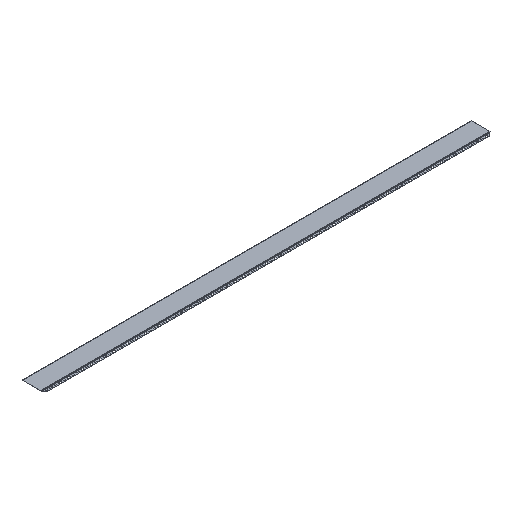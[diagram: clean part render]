
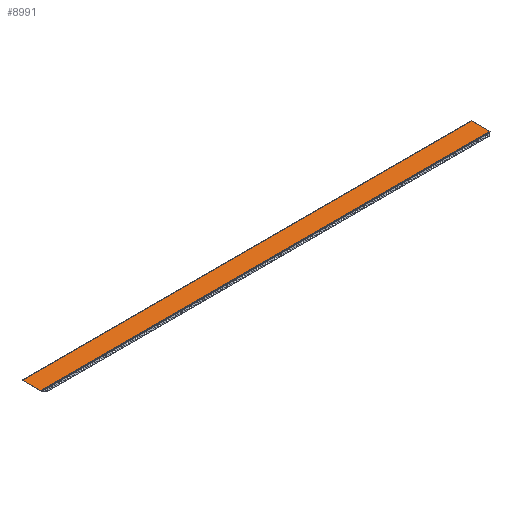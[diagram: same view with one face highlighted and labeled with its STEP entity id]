
A CAD part, isometric view. The second image highlights one B-rep face of the part: STEP entity #8991.
In plain terms, the highlighted planar face has unit normal (0, 0, 1).
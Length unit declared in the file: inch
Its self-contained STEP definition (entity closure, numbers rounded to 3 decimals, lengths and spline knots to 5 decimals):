
#426=PLANE('',#9852);
#851=FACE_OUTER_BOUND('',#1481,.T.);
#1481=EDGE_LOOP('',(#8267,#8268,#8269,#8270,#8271,#8272,#8273,#8274,#8275,
#8276,#8277,#8278));
#2307=LINE('',#14857,#3177);
#2309=LINE('',#14863,#3179);
#2312=LINE('',#14868,#3182);
#2319=LINE('',#14889,#3189);
#2323=LINE('',#14898,#3193);
#2325=LINE('',#14904,#3195);
#2328=LINE('',#14909,#3198);
#2333=LINE('',#14924,#3203);
#2344=LINE('',#14957,#3214);
#2345=LINE('',#14960,#3215);
#2346=LINE('',#14961,#3216);
#2347=LINE('',#14962,#3217);
#3177=VECTOR('',#12281,0.3937);
#3179=VECTOR('',#12285,0.3937);
#3182=VECTOR('',#12290,0.3937);
#3189=VECTOR('',#12307,0.3937);
#3193=VECTOR('',#12313,0.3937);
#3195=VECTOR('',#12317,0.3937);
#3198=VECTOR('',#12322,0.3937);
#3203=VECTOR('',#12335,0.3937);
#3214=VECTOR('',#12370,0.3937);
#3215=VECTOR('',#12373,0.3937);
#3216=VECTOR('',#12374,0.3937);
#3217=VECTOR('',#12375,0.3937);
#4458=VERTEX_POINT('',#14851);
#4460=VERTEX_POINT('',#14855);
#4461=VERTEX_POINT('',#14859);
#4463=VERTEX_POINT('',#14862);
#4473=VERTEX_POINT('',#14887);
#4475=VERTEX_POINT('',#14892);
#4477=VERTEX_POINT('',#14896);
#4478=VERTEX_POINT('',#14900);
#4480=VERTEX_POINT('',#14903);
#4487=VERTEX_POINT('',#14922);
#4497=VERTEX_POINT('',#14955);
#4498=VERTEX_POINT('',#14959);
#5715=EDGE_CURVE('',#4458,#4460,#2307,.T.);
#5717=EDGE_CURVE('',#4461,#4463,#2309,.T.);
#5720=EDGE_CURVE('',#4463,#4460,#2312,.T.);
#5731=EDGE_CURVE('',#4473,#4461,#2319,.T.);
#5735=EDGE_CURVE('',#4475,#4477,#2323,.T.);
#5737=EDGE_CURVE('',#4478,#4480,#2325,.T.);
#5740=EDGE_CURVE('',#4480,#4477,#2328,.T.);
#5748=EDGE_CURVE('',#4478,#4487,#2333,.T.);
#5765=EDGE_CURVE('',#4487,#4497,#2344,.T.);
#5766=EDGE_CURVE('',#4498,#4475,#2345,.T.);
#5767=EDGE_CURVE('',#4458,#4497,#2346,.T.);
#5768=EDGE_CURVE('',#4498,#4473,#2347,.T.);
#8267=ORIENTED_EDGE('',*,*,#5766,.T.);
#8268=ORIENTED_EDGE('',*,*,#5735,.T.);
#8269=ORIENTED_EDGE('',*,*,#5740,.F.);
#8270=ORIENTED_EDGE('',*,*,#5737,.F.);
#8271=ORIENTED_EDGE('',*,*,#5748,.T.);
#8272=ORIENTED_EDGE('',*,*,#5765,.T.);
#8273=ORIENTED_EDGE('',*,*,#5767,.F.);
#8274=ORIENTED_EDGE('',*,*,#5715,.T.);
#8275=ORIENTED_EDGE('',*,*,#5720,.F.);
#8276=ORIENTED_EDGE('',*,*,#5717,.F.);
#8277=ORIENTED_EDGE('',*,*,#5731,.F.);
#8278=ORIENTED_EDGE('',*,*,#5768,.F.);
#8991=ADVANCED_FACE('',(#851),#426,.T.);
#9852=AXIS2_PLACEMENT_3D('',#14958,#12371,#12372);
#12281=DIRECTION('',(1.,0.,0.));
#12285=DIRECTION('',(1.,0.,0.));
#12290=DIRECTION('',(0.,-1.,0.));
#12307=DIRECTION('',(0.,-1.,0.));
#12313=DIRECTION('',(-1.,0.,0.));
#12317=DIRECTION('',(-1.,0.,0.));
#12322=DIRECTION('',(0.,1.,0.));
#12335=DIRECTION('',(0.,-1.,0.));
#12370=DIRECTION('',(1.,0.,0.));
#12371=DIRECTION('center_axis',(0.,0.,1.));
#12372=DIRECTION('ref_axis',(0.,-1.,0.));
#12373=DIRECTION('',(0.,-1.,0.));
#12374=DIRECTION('',(0.,-1.,0.));
#12375=DIRECTION('',(1.,0.,0.));
#14851=CARTESIAN_POINT('',(143.25,0.95394,-0.29083));
#14855=CARTESIAN_POINT('',(143.625,0.95394,-0.29083));
#14857=CARTESIAN_POINT('',(143.25,0.95394,-0.29083));
#14859=CARTESIAN_POINT('',(143.25,6.90874,-0.29083));
#14862=CARTESIAN_POINT('',(143.625,6.90874,-0.29083));
#14863=CARTESIAN_POINT('',(143.25,6.90874,-0.29083));
#14868=CARTESIAN_POINT('',(143.625,6.91502,-0.29083));
#14887=CARTESIAN_POINT('',(143.25,6.91502,-0.29083));
#14889=CARTESIAN_POINT('',(143.25,6.91502,-0.29083));
#14892=CARTESIAN_POINT('',(0.,6.90874,-0.29083));
#14896=CARTESIAN_POINT('',(-0.375,6.90874,-0.29083));
#14898=CARTESIAN_POINT('',(0.,6.90874,-0.29083));
#14900=CARTESIAN_POINT('',(0.,0.95394,-0.29083));
#14903=CARTESIAN_POINT('',(-0.375,0.95394,-0.29083));
#14904=CARTESIAN_POINT('',(0.,0.95394,-0.29083));
#14909=CARTESIAN_POINT('',(-0.375,0.95251,-0.29083));
#14922=CARTESIAN_POINT('',(0.,0.95251,-0.29083));
#14924=CARTESIAN_POINT('',(0.,6.91502,-0.29083));
#14955=CARTESIAN_POINT('',(143.25,0.95251,-0.29083));
#14957=CARTESIAN_POINT('',(0.,0.95251,-0.29083));
#14958=CARTESIAN_POINT('Origin',(0.,6.91502,-0.29083));
#14959=CARTESIAN_POINT('',(0.,6.91502,-0.29083));
#14960=CARTESIAN_POINT('',(0.,6.91502,-0.29083));
#14961=CARTESIAN_POINT('',(143.25,6.91502,-0.29083));
#14962=CARTESIAN_POINT('',(0.,6.91502,-0.29083));
